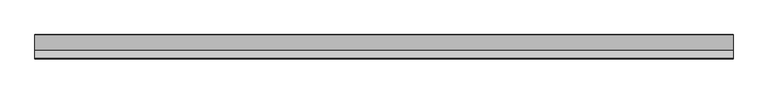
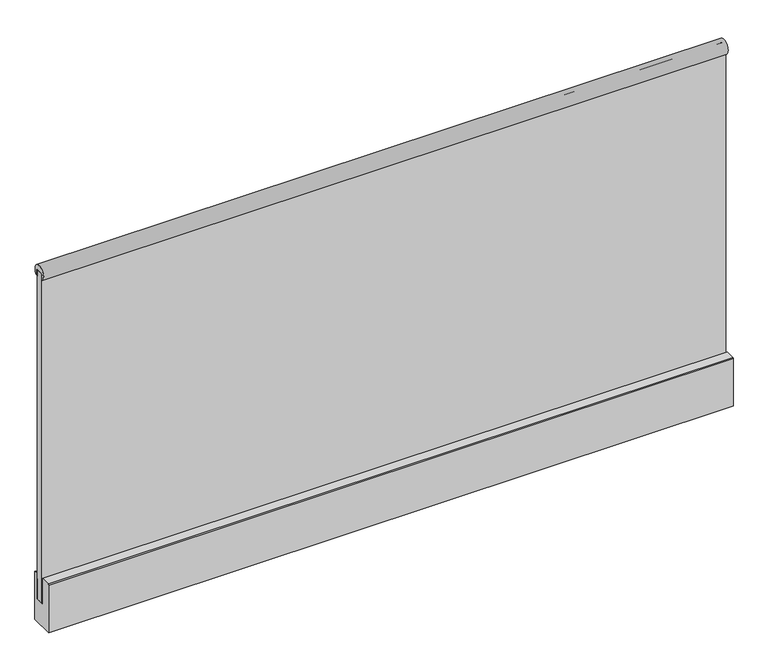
"""IFC4 building model written with IfcOpenShell, lengths in millimetres: railing geometry, Glass Railing (10+10) - Faraone - Ninfa 186 - Fascia mounted - Elipse Handrail 50."""

from ifc_helpers import new_model, si_unit, point, frame, frame_2d, origin, place, context, project, spatial, polyline, circle_curve, trimmed, segment, composite_curve, outline, extrude, source, transform, mapped, element, save


def railing_4a85fa71(model_context):
    return source(origin(), model_context, "Body", "SweptSolid", [
        extrude(outline(composite_curve([segment(trimmed(circle_curve(frame_2d((695.2593543, 1084.5209903)), 25.0), [point((677.9100028, 1066.5209903))], [point((712.6087059, 1066.5209903))], False, "CARTESIAN"), True, "CONTINUOUS"), segment(polyline([(712.6087059, 1066.5209903), (709.6393543, 1066.5209903), (709.6393543, 1085.52)]), True, "CONTINUOUS"), segment(trimmed(circle_curve(frame_2d((705.6393543, 1085.52)), 4.0), [point((709.6393543, 1085.52))], [point((705.6393543, 1089.52))], True, "CARTESIAN"), True, "CONTINUOUS"), segment(polyline([(705.6393543, 1089.52), (684.8793543, 1089.52)]), True, "CONTINUOUS"), segment(trimmed(circle_curve(frame_2d((684.8793543, 1085.52)), 4.0), [point((684.8793543, 1089.52))], [point((680.8793543, 1085.52))], True, "CARTESIAN"), True, "CONTINUOUS"), segment(polyline([(680.8793543, 1085.52), (680.8793543, 1066.5209903), (677.9100028, 1066.5209903)]), True, "CONTINUOUS")], self_intersect=False)), frame((4362.6376845, 0.0, 0.0), z_axis=(1.0, 0.0, 0.0), x_axis=(0.0, 1.0, 0.0)), (0.0, 0.0, 1.0), 2320.0),
        extrude(outline(polyline([(706.0393543, -92.36), (684.5393543, -92.36), (684.5393543, 1089.54), (694.7893543, 1089.54), (694.7893543, -91.56), (695.7893543, -91.56), (695.7893543, 1089.54), (706.0393543, 1089.54), (706.0393543, -92.36)])), frame((4362.6376845, 0.0, 0.0), z_axis=(1.0, 0.0, 0.0), x_axis=(0.0, 1.0, 0.0)), (0.0, 0.0, 1.0), 2320.0),
        extrude(outline(composite_curve([segment(trimmed(circle_curve(frame_2d((717.9119239, -3.1212327)), 3.1206002), [point((717.9119239, -0.0006325))], [point((721.0325241, -3.1212327))], False, "CARTESIAN"), True, "CONTINUOUS"), segment(polyline([(721.0325241, -3.1212327), (721.0325241, -173.21), (640.6889907, -173.21), (640.6889907, -3.0621312)]), True, "CONTINUOUS"), segment(trimmed(circle_curve(frame_2d((643.7504894, -3.0621312)), 3.0614987), [point((640.6889907, -3.0621312))], [point((643.7504894, -0.0006325))], False, "CARTESIAN"), True, "CONTINUOUS"), segment(polyline([(643.7504894, -0.0006325), (676.2312253, -0.0006325), (676.2312253, -95.3393625), (708.0074834, -95.3393625), (708.0074834, -0.0006325), (717.9119239, -0.0006325)]), True, "CONTINUOUS")], self_intersect=False)), frame((4362.6376845, 0.0, 0.0), z_axis=(1.0, 0.0, 0.0), x_axis=(0.0, 1.0, 0.0)), (0.0, 0.0, 1.0), 2320.0),
        extrude(outline(polyline([(708.0112691, -95.34), (684.5274395, -95.34), (684.5274395, -92.3609041), (706.0373211, -92.3609041), (706.0373211, -20.1108016), (708.0112691, -20.1108016), (708.0112691, -95.34)])), frame((4362.6376845, 0.0, 0.0), z_axis=(1.0, 0.0, 0.0), x_axis=(0.0, 1.0, 0.0)), (0.0, 0.0, 1.0), 2320.0),
        extrude(outline(polyline([(4362.6376845, 706.0393543), (4362.6376845, 709.6393543), (6682.6376845, 709.6393543), (6682.6376845, 706.0393543), (4362.6376845, 706.0393543)])), frame((0.0, 0.0, 1066.52), z_axis=(0.0, 0.0, 1.0), x_axis=(1.0, 0.0, 0.0)), (0.0, 0.0, 1.0), 17.0),
        extrude(outline(polyline([(4362.6376845, 680.9093543), (4362.6376845, 684.5093543), (6682.6376845, 684.5093543), (6682.6376845, 680.9093543), (4362.6376845, 680.9093543)])), frame((0.0, 0.0, 1066.52), z_axis=(0.0, 0.0, 1.0), x_axis=(1.0, 0.0, 0.0)), (0.0, 0.0, 1.0), 17.0),
        extrude(outline(polyline([(4362.6376845, 684.5893543), (4362.6376845, 706.0893543), (6682.6376845, 706.0893543), (6682.6376845, 684.5893543), (4362.6376845, 684.5893543)])), frame((0.0, 0.0, 1087.02), z_axis=(0.0, 0.0, 1.0), x_axis=(1.0, 0.0, 0.0)), (0.0, 0.0, 1.0), 2.5),
    ])


if __name__ == "__main__":
    model = new_model("IFC4")
    model_context = context("Model", 3, world=origin())
    ifc_project = project(units=[si_unit("LENGTHUNIT", "METRE", prefix="MILLI")], contexts=[model_context])
    site = spatial("IfcSite", under=ifc_project)
    building = spatial("IfcBuilding", under=site)
    placement = place(None, origin())
    railing_shape = railing_4a85fa71(model_context)
    element("IfcRailing", 1, ObjectType="Glass Railing (10+10) - Faraone - Ninfa 186 - Fascia mounted - Elipse Handrail 50", at=placement, inside=building, context=model_context, shape_type="MappedRepresentation", body=[
        mapped(railing_shape, transform((0.0, 0.0, 0.0), x_axis=(1.0, 0.0, 0.0), y_axis=(0.0, 1.0, 0.0), z_axis=(0.0, 0.0, 1.0))),
    ])
    save(model, "model.ifc")
